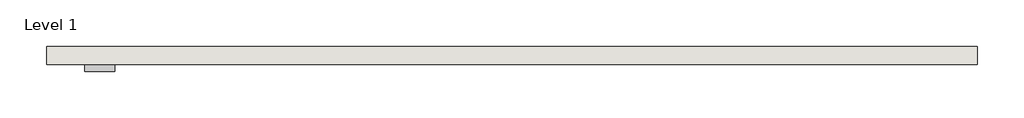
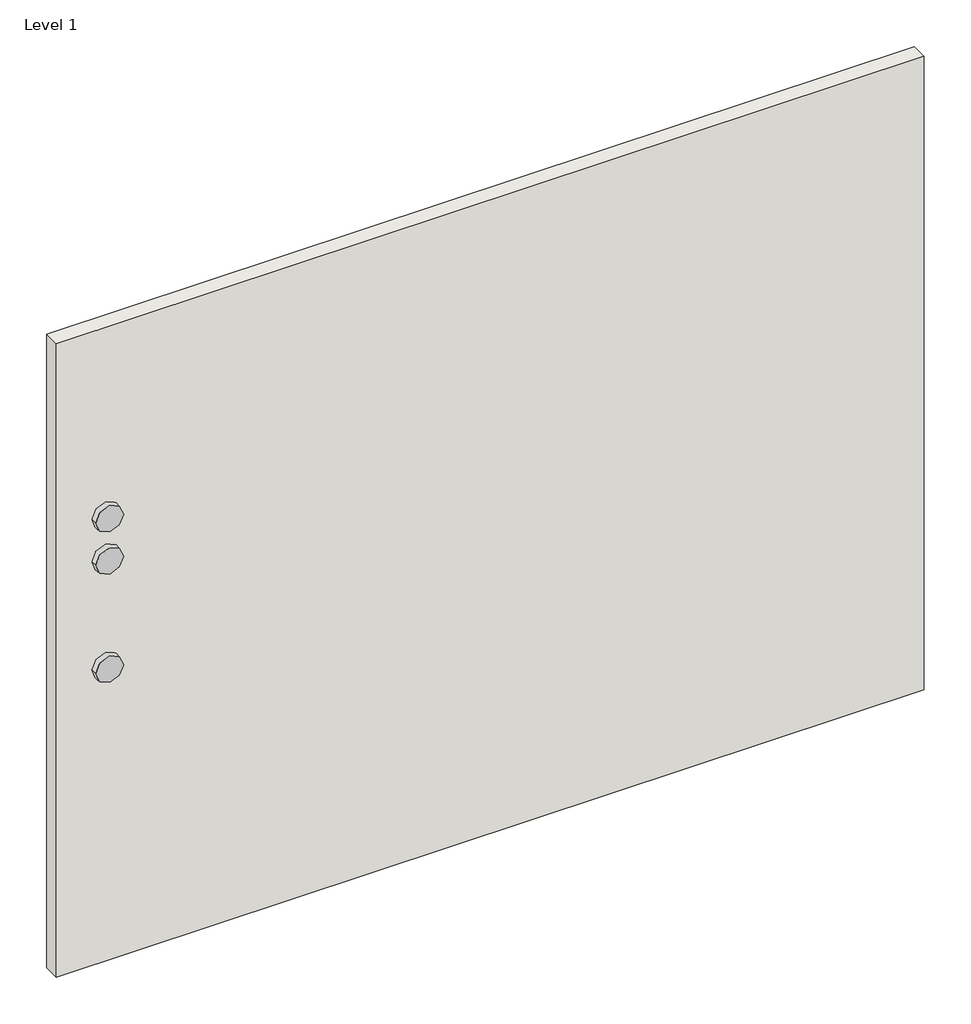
# One storey, incomplete: 3 proxies, 1 wall.
"""IFC4 building model written with IfcOpenShell, lengths in millimetres."""

from ifc_helpers import new_model, si_unit, origin, origin_with_axes, place, context, project, spatial, polyline, outline, extrude, transform, mapped, element, save
from components import materialmodel_materialmodel_d9ff14ed

model = new_model("IFC4")

# Units and contexts
model_context = context("Model", 3, world=origin())
ifc_project = project(units=[si_unit("LENGTHUNIT", "METRE", prefix="MILLI")], contexts=[model_context])

# Site, building, storey
site = spatial("IfcSite", under=ifc_project)
building = spatial("IfcBuilding", under=site)
storey = spatial("IfcBuildingStorey", under=building, Name="Level 1", Elevation=0.0)

# Proxies
placement = place(None, origin())
materialmodel_materialmodel_shape = materialmodel_materialmodel_d9ff14ed(model_context)
element("IfcBuildingElementProxy", 1, Name="MaterialModel : MaterialModel", ObjectType="MaterialModel : MaterialModel", at=placement, inside=storey, context=model_context, shape_type="MappedRepresentation", body=[
    mapped(materialmodel_materialmodel_shape, transform((-14259.8751611, 5257.5863071, 769.967093), x_axis=(1.0, 0.0, 0.0), y_axis=(0.0, 1.0, 0.0), z_axis=(0.0, 0.0, 1.0))),
])
element("IfcBuildingElementProxy", 2, Name="MaterialModel : MaterialModel", ObjectType="MaterialModel : MaterialModel", at=placement, inside=storey, context=model_context, shape_type="MappedRepresentation", body=[
    mapped(materialmodel_materialmodel_shape, transform((-14259.8751611, 5257.5863071, 484.967093), x_axis=(1.0, 0.0, 0.0), y_axis=(0.0, 1.0, 0.0), z_axis=(0.0, 0.0, 1.0))),
])
element("IfcBuildingElementProxy", 3, Name="MaterialModel : MaterialModel", ObjectType="MaterialModel : MaterialModel", at=placement, inside=storey, context=model_context, shape_type="MappedRepresentation", body=[
    mapped(materialmodel_materialmodel_shape, transform((-14259.8751611, 5257.5863071, 689.967093), x_axis=(1.0, 0.0, 0.0), y_axis=(0.0, 1.0, 0.0), z_axis=(0.0, 0.0, 1.0))),
])

# Wall
element("IfcWall", 4, ObjectType="Presentation wall", at=placement, inside=storey, context=model_context, shape_type="SweptSolid", body=[
    extrude(outline(polyline([(-12793.5118995, 5257.6728282), (-14348.5118995, 5257.6728282), (-14348.5118995, 5287.6728282), (-12793.5118995, 5287.6728282), (-12793.5118995, 5257.6728282)])), origin_with_axes(), (0.0, 0.0, 1.0), 1200.0),
])

save(model, "model.ifc")
